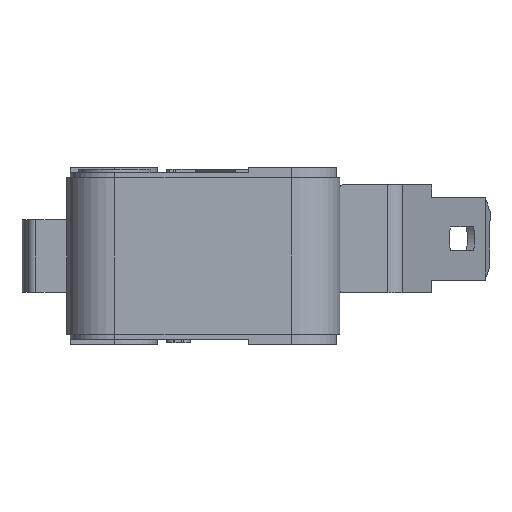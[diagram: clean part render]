
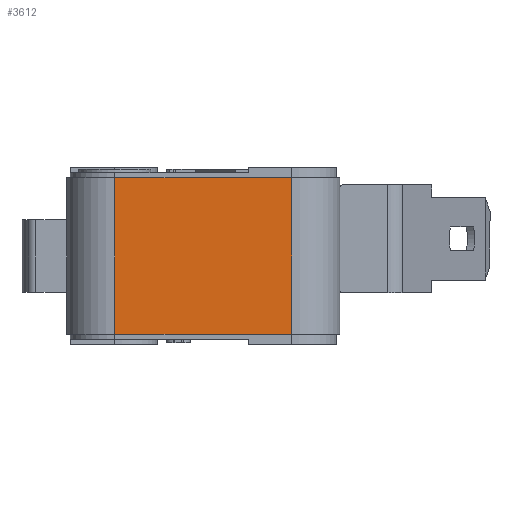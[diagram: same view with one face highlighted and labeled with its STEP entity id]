
A CAD part, left-side view. The second image highlights one B-rep face of the part: STEP entity #3612.
In plain terms, the highlighted planar face has unit normal (-1, 0, 0).
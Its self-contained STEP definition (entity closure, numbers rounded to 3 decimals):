
#3545=CARTESIAN_POINT('',(-13.9,5.15,-4.55));
#3546=VERTEX_POINT('',#3545);
#3547=CARTESIAN_POINT('',(-13.9,5.15,4.55));
#3548=VERTEX_POINT('',#3547);
#3549=CARTESIAN_POINT('',(-13.9,5.15,-4.55));
#3550=DIRECTION('',(0.0,0.0,1.0));
#3551=VECTOR('',#3550,9.1);
#3552=LINE('',#3549,#3551);
#3553=EDGE_CURVE('',#3546,#3548,#3552,.T.);
#3582=CARTESIAN_POINT('',(-13.9,-5.15,-4.55));
#3583=DIRECTION('',(-1.0,0.0,0.0));
#3584=DIRECTION('',(0.0,0.0,1.0));
#3585=AXIS2_PLACEMENT_3D('',#3582,#3583,#3584);
#3586=PLANE('',#3585);
#3587=CARTESIAN_POINT('',(-13.9,-5.15,4.55));
#3588=VERTEX_POINT('',#3587);
#3589=CARTESIAN_POINT('',(-13.9,-5.15,4.55));
#3590=DIRECTION('',(0.0,1.0,0.0));
#3591=VECTOR('',#3590,10.3);
#3592=LINE('',#3589,#3591);
#3593=EDGE_CURVE('',#3588,#3548,#3592,.T.);
#3594=ORIENTED_EDGE('',*,*,#3593,.T.);
#3595=ORIENTED_EDGE('',*,*,#3553,.F.);
#3596=CARTESIAN_POINT('',(-13.9,-5.15,-4.55));
#3597=VERTEX_POINT('',#3596);
#3598=CARTESIAN_POINT('',(-13.9,5.15,-4.55));
#3599=DIRECTION('',(0.0,-1.0,0.0));
#3600=VECTOR('',#3599,10.3);
#3601=LINE('',#3598,#3600);
#3602=EDGE_CURVE('',#3546,#3597,#3601,.T.);
#3603=ORIENTED_EDGE('',*,*,#3602,.T.);
#3604=CARTESIAN_POINT('',(-13.9,-5.15,-4.55));
#3605=DIRECTION('',(0.0,0.0,1.0));
#3606=VECTOR('',#3605,9.1);
#3607=LINE('',#3604,#3606);
#3608=EDGE_CURVE('',#3597,#3588,#3607,.T.);
#3609=ORIENTED_EDGE('',*,*,#3608,.T.);
#3610=EDGE_LOOP('',(#3594,#3595,#3603,#3609));
#3611=FACE_OUTER_BOUND('',#3610,.T.);
#3612=ADVANCED_FACE('',(#3611),#3586,.T.);
